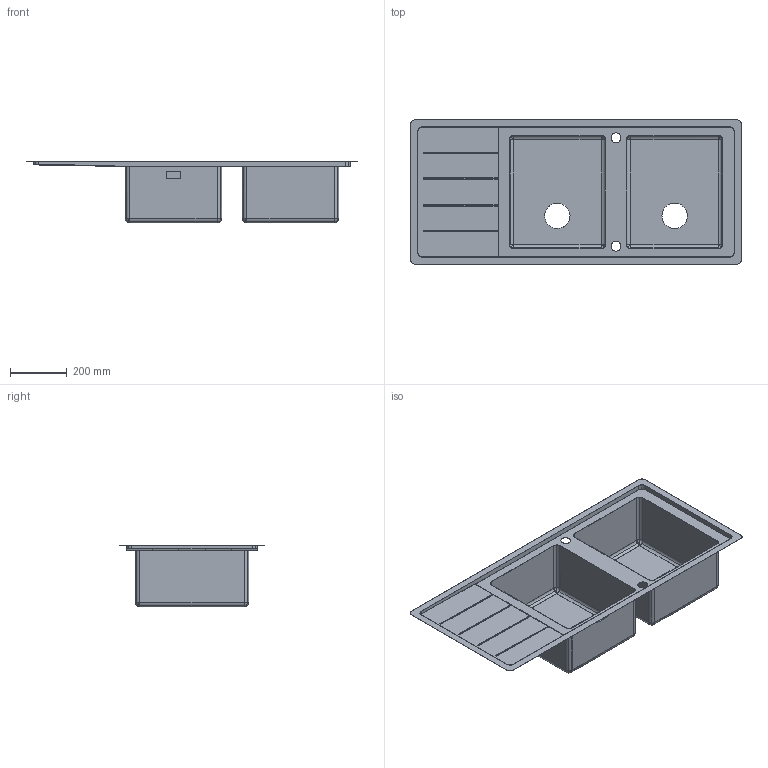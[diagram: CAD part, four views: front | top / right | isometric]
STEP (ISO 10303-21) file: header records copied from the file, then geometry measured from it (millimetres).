
FILE_DESCRIPTION(('CATIA V5 STEP Exchange'),'2;1');
FILE_NAME('C:\Users\linop\Desktop\LFT116D.stp','2018-05-24T15:42:15+00:00',('none'),('none'),'CATIA Version 5-6 Release 2014','CATIA V5 STEP AP203','none');
FILE_SCHEMA(('CONFIG_CONTROL_DESIGN'));
Length unit declared in the file: millimetre
Products named in the file (1): LFT116D
Bounding box: 1170 x 510 x 218.8 mm (x, y, z)
Volume: 1122036.4 mm3; surface area: 2403467.5 mm2
Topology: 3 solids, 3 shells, 182 faces, 476 edges, 272 vertices
Faces by surface type: cylinder 88, plane 62, sphere 32
Entity records: 5488 total; most frequent: CARTESIAN_POINT 1282, ORIENTED_EDGE 888, DIRECTION 762, EDGE_CURVE 444, AXIS2_PLACEMENT_3D 345, VERTEX_POINT 272, VECTOR 244, LINE 244
